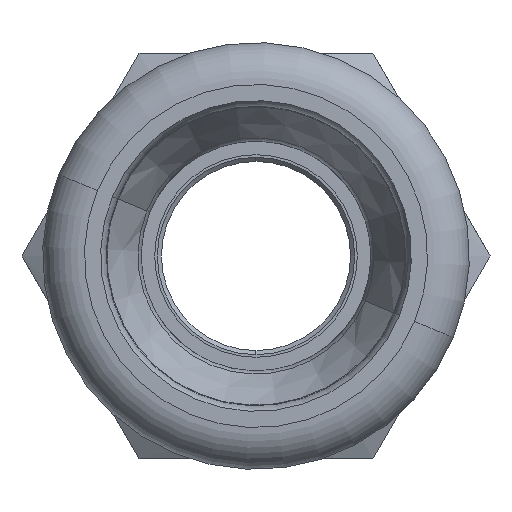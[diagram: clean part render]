
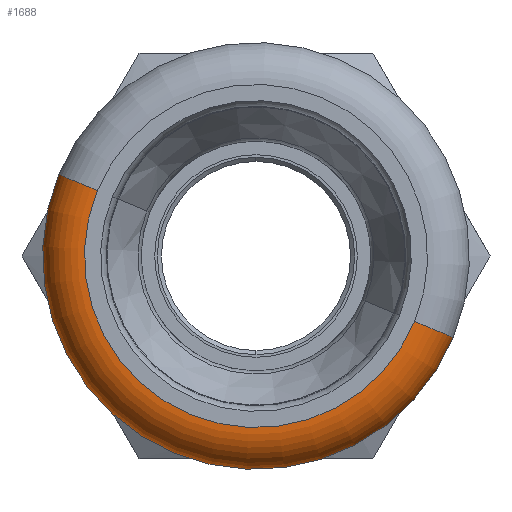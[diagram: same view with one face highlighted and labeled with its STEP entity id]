
A CAD part, left-side view. The second image highlights one B-rep face of the part: STEP entity #1688.
In plain terms, the highlighted toroidal (fillet/blend) face has major radius 12.7 mm and minor radius 3.1 mm.
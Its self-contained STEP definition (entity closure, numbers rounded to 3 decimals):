
#49 = CARTESIAN_POINT ( 'NONE',  ( 26.9, 0., -12.7 ) ) ;
#141 = ORIENTED_EDGE ( 'NONE', *, *, #3774, .T. ) ;
#291 = CARTESIAN_POINT ( 'NONE',  ( 30., 0., 0. ) ) ;
#310 = CARTESIAN_POINT ( 'NONE',  ( 26.9, 0., 12.7 ) ) ;
#591 = CARTESIAN_POINT ( 'NONE',  ( 24.708, 0., -14.892 ) ) ;
#709 = EDGE_CURVE ( 'NONE', #4057, #3684, #2707, .T. ) ;
#1083 = AXIS2_PLACEMENT_3D ( 'NONE', #291, #3752, #2806 ) ;
#1164 = DIRECTION ( 'NONE',  ( -1., 0., 0. ) ) ;
#1192 = CARTESIAN_POINT ( 'NONE',  ( 24.708, 0., 0. ) ) ;
#1304 = AXIS2_PLACEMENT_3D ( 'NONE', #49, #1927, #2234 ) ;
#1364 = AXIS2_PLACEMENT_3D ( 'NONE', #310, #2528, #2323 ) ;
#1440 = ORIENTED_EDGE ( 'NONE', *, *, #3867, .F. ) ;
#1488 = ORIENTED_EDGE ( 'NONE', *, *, #709, .T. ) ;
#1509 = CARTESIAN_POINT ( 'NONE',  ( 30., 0., -12.7 ) ) ;
#1523 = DIRECTION ( 'NONE',  ( -1., 0., 0. ) ) ;
#1591 = CIRCLE ( 'NONE', #1364, 3.1 ) ;
#1688 = ADVANCED_FACE ( 'NONE', ( #2224 ), #2182, .T. ) ;
#1852 = EDGE_CURVE ( 'NONE', #3125, #1883, #2950, .T. ) ;
#1883 = VERTEX_POINT ( 'NONE', #591 ) ;
#1927 = DIRECTION ( 'NONE',  ( 0., 1., 0. ) ) ;
#2182 = TOROIDAL_SURFACE ( 'NONE', #3958, 12.7, 3.1 ) ;
#2213 = AXIS2_PLACEMENT_3D ( 'NONE', #1192, #1523, #4043 ) ;
#2224 = FACE_OUTER_BOUND ( 'NONE', #2245, .T. ) ;
#2234 = DIRECTION ( 'NONE',  ( 0., 0., 1. ) ) ;
#2245 = EDGE_LOOP ( 'NONE', ( #1488, #141, #2926, #1440 ) ) ;
#2323 = DIRECTION ( 'NONE',  ( 0., 0., -1. ) ) ;
#2528 = DIRECTION ( 'NONE',  ( 0., -1., 0. ) ) ;
#2707 = CIRCLE ( 'NONE', #1083, 12.7 ) ;
#2806 = DIRECTION ( 'NONE',  ( 0., 0., 1. ) ) ;
#2926 = ORIENTED_EDGE ( 'NONE', *, *, #1852, .F. ) ;
#2950 = CIRCLE ( 'NONE', #2213, 14.892 ) ;
#3125 = VERTEX_POINT ( 'NONE', #3167 ) ;
#3167 = CARTESIAN_POINT ( 'NONE',  ( 24.708, 0., 14.892 ) ) ;
#3281 = CIRCLE ( 'NONE', #1304, 3.1 ) ;
#3381 = CARTESIAN_POINT ( 'NONE',  ( 26.9, 0., 0. ) ) ;
#3631 = CARTESIAN_POINT ( 'NONE',  ( 30., 0., 12.7 ) ) ;
#3684 = VERTEX_POINT ( 'NONE', #1509 ) ;
#3703 = DIRECTION ( 'NONE',  ( 0., 0., 1. ) ) ;
#3752 = DIRECTION ( 'NONE',  ( -1., 0., 0. ) ) ;
#3774 = EDGE_CURVE ( 'NONE', #3684, #1883, #3281, .T. ) ;
#3867 = EDGE_CURVE ( 'NONE', #4057, #3125, #1591, .T. ) ;
#3958 = AXIS2_PLACEMENT_3D ( 'NONE', #3381, #1164, #3703 ) ;
#4043 = DIRECTION ( 'NONE',  ( 0., 0., 1. ) ) ;
#4057 = VERTEX_POINT ( 'NONE', #3631 ) ;
